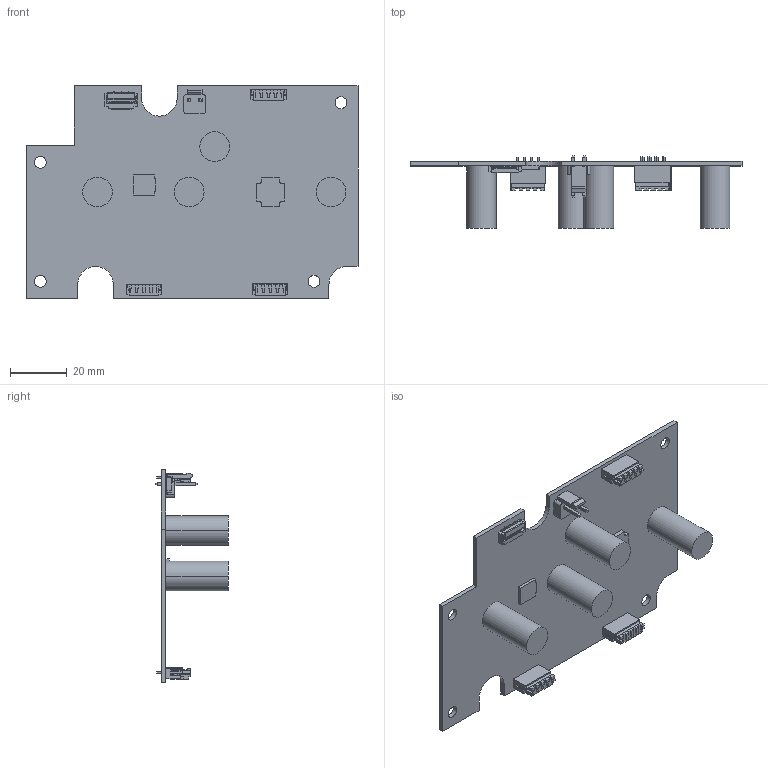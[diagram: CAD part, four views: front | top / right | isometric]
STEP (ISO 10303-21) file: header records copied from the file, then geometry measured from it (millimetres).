
FILE_DESCRIPTION((''),'2;1');
FILE_NAME('AMP_BOARD_SWAN_ASSY_ASM','2020-12-04T',('g6007893'),(''),'CREO PARAMETRIC BY PTC INC, 2014350','CREO PARAMETRIC BY PTC INC, 2014350','');
FILE_SCHEMA(('CONFIG_CONTROL_DESIGN'));
Length unit declared in the file: millimetre
Products named in the file (9): AMP_BOARD_SWAN; B4B-EH-A; 86514-02XX_REV-1; C-D10_5-5-H22; TQFP-48DSH; SSOP-24ESH; FH41-15S-0_5SH; EHR-4; AMP_BOARD_SWAN_ASSY_ASM
Assembly tree (15 placements, depth 2):
  AMP_BOARD_SWAN_ASSY_ASM
    AMP_BOARD_SWAN
    B4B-EH-A  x3
    86514-02XX_REV-1
    C-D10_5-5-H22  x4
    TQFP-48DSH
    SSOP-24ESH
    FH41-15S-0_5SH
    EHR-4  x3
Bounding box: 117 x 25.6 x 75 mm (x, y, z)
Volume: 22045.4 mm3; surface area: 23739 mm2
Topology: 15 solids, 15 shells, 1052 faces, 2931 edges, 1948 vertices
Faces by surface type: plane 908, cylinder 141, extrusion 3
Entity records: 24444 total; most frequent: CARTESIAN_POINT 4211, ORIENTED_EDGE 4122, DIRECTION 3818, EDGE_CURVE 2061, VECTOR 1788, LINE 1785, VERTEX_POINT 1368, AXIS2_PLACEMENT_3D 1015
